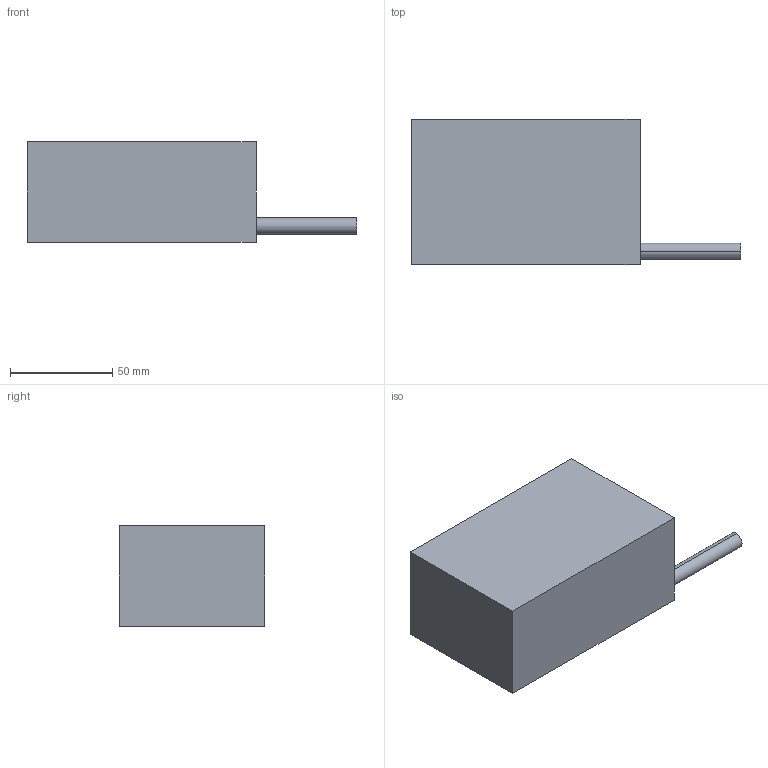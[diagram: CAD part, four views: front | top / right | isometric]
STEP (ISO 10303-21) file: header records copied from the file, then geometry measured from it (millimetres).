
FILE_DESCRIPTION (( 'STEP AP214' ), '1' );
FILE_NAME ('FLM-71-112.STEP', '2022-05-12T08:01:56', ( 'Microsoft' ), ( 'Microsoft' ), 'SwSTEP 2.0', 'SolidWorks 2016', '' );
FILE_SCHEMA (( 'AUTOMOTIVE_DESIGN' ));
Length unit declared in the file: millimetre
Products named in the file (1): FLM-71-112
Bounding box: 161.3 x 71 x 49.3 mm (x, y, z)
Volume: 394011.9 mm3; surface area: 35617.8 mm2
Topology: 1 solids, 1 shells, 45 faces, 102 edges, 54 vertices
Faces by surface type: cone 24, cylinder 14, plane 7
Entity records: 1326 total; most frequent: DIRECTION 222, CARTESIAN_POINT 190, ORIENTED_EDGE 180, EDGE_CURVE 90, AXIS2_PLACEMENT_3D 86, VERTEX_POINT 54, EDGE_LOOP 52, VECTOR 50
